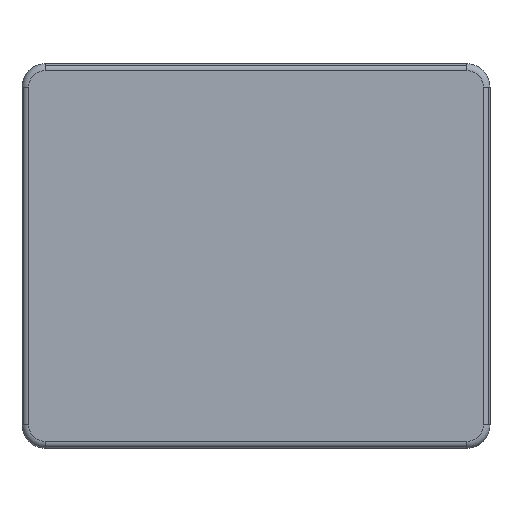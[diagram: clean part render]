
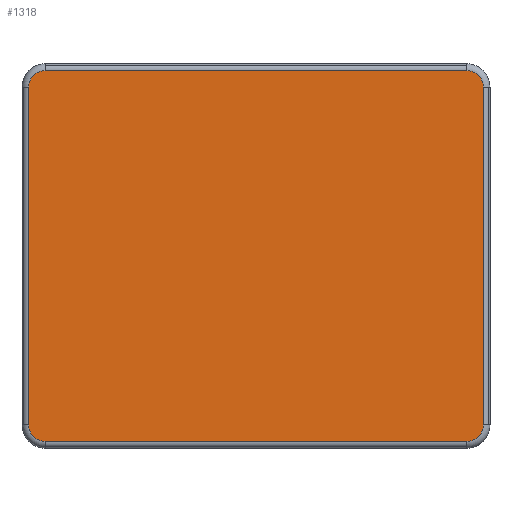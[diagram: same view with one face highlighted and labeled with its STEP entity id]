
A CAD part, front view. The second image highlights one B-rep face of the part: STEP entity #1318.
In plain terms, the highlighted planar face has unit normal (0, -1, 0).
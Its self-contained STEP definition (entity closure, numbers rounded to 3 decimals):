
#1318=ADVANCED_FACE('',(#3535),#3536,.F.);
#3535=FACE_OUTER_BOUND('',#5754,.T.);
#3536=PLANE('',#5755);
#5754=EDGE_LOOP('',(#15424,#15425,#15426,#15427,#15428,#15429,#15430,#15431));
#5755=AXIS2_PLACEMENT_3D('',#15432,#15433,#15434);
#15424=ORIENTED_EDGE('',*,*,#18644,.F.);
#15425=ORIENTED_EDGE('',*,*,#18594,.F.);
#15426=ORIENTED_EDGE('',*,*,#18647,.F.);
#15427=ORIENTED_EDGE('',*,*,#18590,.F.);
#15428=ORIENTED_EDGE('',*,*,#18646,.F.);
#15429=ORIENTED_EDGE('',*,*,#18586,.F.);
#15430=ORIENTED_EDGE('',*,*,#18645,.F.);
#15431=ORIENTED_EDGE('',*,*,#18582,.F.);
#15432=CARTESIAN_POINT('',(0.,-1.4,0.0));
#15433=DIRECTION('',(0.,1.0,0.));
#15434=DIRECTION('',(1.0,0.,0.0));
#18582=EDGE_CURVE('',#23845,#23847,#23848,.T.);
#18586=EDGE_CURVE('',#23853,#23855,#23856,.T.);
#18590=EDGE_CURVE('',#23861,#23863,#23864,.T.);
#18594=EDGE_CURVE('',#23869,#23871,#23872,.T.);
#18644=EDGE_CURVE('',#23871,#23845,#23940,.T.);
#18645=EDGE_CURVE('',#23847,#23853,#23941,.T.);
#18646=EDGE_CURVE('',#23855,#23861,#23942,.T.);
#18647=EDGE_CURVE('',#23863,#23869,#23943,.T.);
#23845=VERTEX_POINT('',#32174);
#23847=VERTEX_POINT('',#32176);
#23848=LINE('',#32177,#32178);
#23853=VERTEX_POINT('',#32184);
#23855=VERTEX_POINT('',#32186);
#23856=LINE('',#32187,#32188);
#23861=VERTEX_POINT('',#32194);
#23863=VERTEX_POINT('',#32196);
#23864=LINE('',#32197,#32198);
#23869=VERTEX_POINT('',#32204);
#23871=VERTEX_POINT('',#32206);
#23872=LINE('',#32207,#32208);
#23940=CIRCLE('',#32292,0.05);
#23941=CIRCLE('',#32293,0.05);
#23942=CIRCLE('',#32294,0.05);
#23943=CIRCLE('',#32295,0.05);
#32174=CARTESIAN_POINT('',(0.68,-1.4,0.505));
#32176=CARTESIAN_POINT('',(0.68,-1.4,-0.505));
#32177=CARTESIAN_POINT('',(0.68,-1.4,0.253));
#32178=VECTOR('',#35584,1.0);
#32184=CARTESIAN_POINT('',(0.63,-1.4,-0.555));
#32186=CARTESIAN_POINT('',(-0.63,-1.4,-0.555));
#32187=CARTESIAN_POINT('',(0.315,-1.4,-0.555));
#32188=VECTOR('',#35592,1.0);
#32194=CARTESIAN_POINT('',(-0.68,-1.4,-0.505));
#32196=CARTESIAN_POINT('',(-0.68,-1.4,0.505));
#32197=CARTESIAN_POINT('',(-0.68,-1.4,-0.253));
#32198=VECTOR('',#35600,1.0);
#32204=CARTESIAN_POINT('',(-0.63,-1.4,0.555));
#32206=CARTESIAN_POINT('',(0.63,-1.4,0.555));
#32207=CARTESIAN_POINT('',(-0.315,-1.4,0.555));
#32208=VECTOR('',#35608,1.0);
#32292=AXIS2_PLACEMENT_3D('',#35724,#35725,#35726);
#32293=AXIS2_PLACEMENT_3D('',#35727,#35728,#35729);
#32294=AXIS2_PLACEMENT_3D('',#35730,#35731,#35732);
#32295=AXIS2_PLACEMENT_3D('',#35733,#35734,#35735);
#35584=DIRECTION('',(0.0,0.,-1.0));
#35592=DIRECTION('',(-1.0,0.,0.0));
#35600=DIRECTION('',(0.0,0.,1.0));
#35608=DIRECTION('',(1.0,0.,0.0));
#35724=CARTESIAN_POINT('',(0.63,-1.4,0.505));
#35725=DIRECTION('',(0.,1.0,0.));
#35726=DIRECTION('',(0.707,0.,0.707));
#35727=CARTESIAN_POINT('',(0.63,-1.4,-0.505));
#35728=DIRECTION('',(0.,1.0,0.));
#35729=DIRECTION('',(0.707,0.,-0.707));
#35730=CARTESIAN_POINT('',(-0.63,-1.4,-0.505));
#35731=DIRECTION('',(0.,1.0,0.));
#35732=DIRECTION('',(-0.707,0.,-0.707));
#35733=CARTESIAN_POINT('',(-0.63,-1.4,0.505));
#35734=DIRECTION('',(0.,1.0,0.));
#35735=DIRECTION('',(-0.707,0.,0.707));
